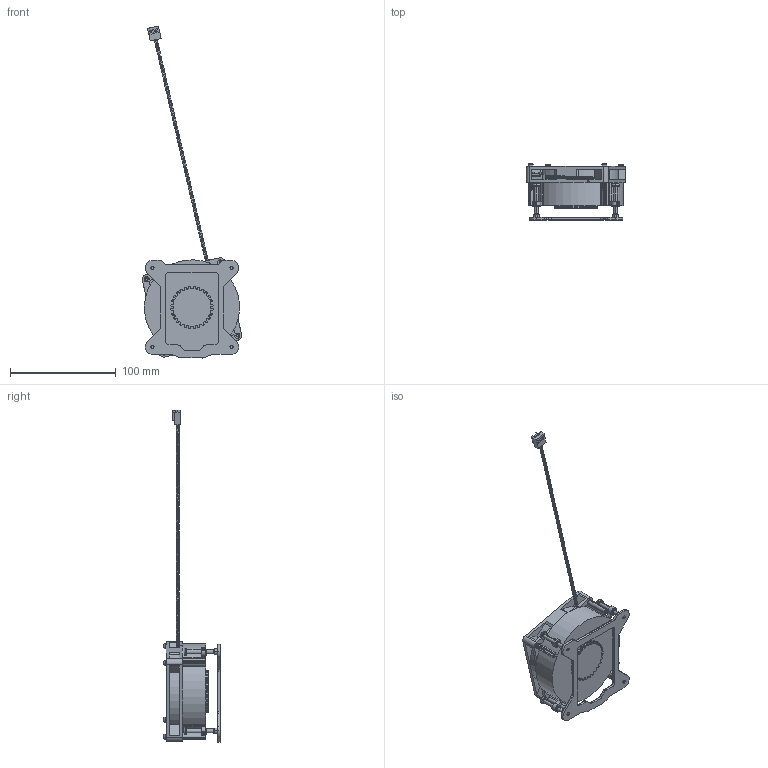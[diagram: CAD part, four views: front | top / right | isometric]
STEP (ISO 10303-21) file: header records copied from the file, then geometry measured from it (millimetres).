
FILE_DESCRIPTION((''),'2;1');
FILE_NAME('RG3219-40-002_ME_ASM','2022-11-03T',('User'),(''),'PRO/ENGINEER BY PARAMETRIC TECHNOLOGY CORPORATION, 2017170','PRO/ENGINEER BY PARAMETRIC TECHNOLOGY CORPORATION, 2017170','');
FILE_SCHEMA(('CONFIG_CONTROL_DESIGN'));
Length unit declared in the file: millimetre
Products named in the file (17): D90X25_AL_SINK__3; D90_25H_AL_ASSY_ASM_1_ASM; DEAKTOP_SCREW_D7_30_8L_1; E-RING_1; DESKTOP_SCREW_ASSY_ASM_1_ASM; DESKTOP_D90_25H_AL_ASSY_ASM_1_ASM; 230FR08015A0013_2; 4P-PLUGZ__VORTEX__1; FAN_SCREW_T3X25MM_1; 1_1; LABEL_R30_1_1; AD0812VB-D7B_NS75__1_ASM_1_ASM; 850-BP1156_1; MYLER_1; 850-BP1156_ASSY__ASM_1_ASM; RG3219-40_ASM_1_ASM; RG3219-40-002_ME_ASM
Assembly tree (22 placements, depth 5):
  RG3219-40-002_ME_ASM
    RG3219-40_ASM_1_ASM
      DESKTOP_D90_25H_AL_ASSY_ASM_1_ASM
        D90_25H_AL_ASSY_ASM_1_ASM
          D90X25_AL_SINK__3
        DESKTOP_SCREW_ASSY_ASM_1_ASM  x4
          DEAKTOP_SCREW_D7_30_8L_1
          E-RING_1
      AD0812VB-D7B_NS75__1_ASM_1_ASM
        230FR08015A0013_2
        4P-PLUGZ__VORTEX__1
        FAN_SCREW_T3X25MM_1  x4
        1_1
        LABEL_R30_1_1
      850-BP1156_ASSY__ASM_1_ASM
        850-BP1156_1
        MYLER_1
Bounding box: 94.24 x 53.1 x 314.61 mm (x, y, z)
Volume: 222361 mm3; surface area: 79334.6 mm2
Topology: 19 solids, 33 shells, 3436 faces, 9377 edges, 6067 vertices
Faces by surface type: plane 1900, cylinder 700, bspline 688, extrusion 95, torus 34, cone 19
Entity records: 148275 total; most frequent: CARTESIAN_POINT 88764, ORIENTED_EDGE 13632, DIRECTION 9893, EDGE_CURVE 6858, VERTEX_POINT 4402, VECTOR 4039, LINE 3944, AXIS2_PLACEMENT_3D 2927
